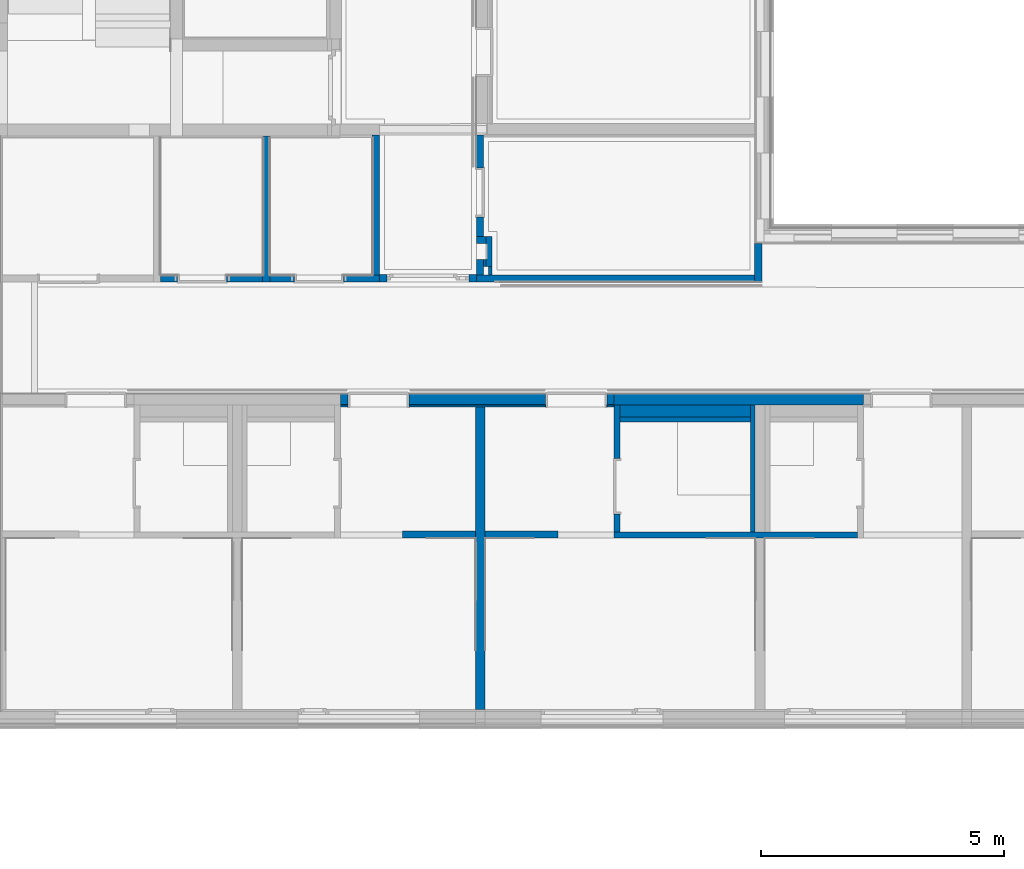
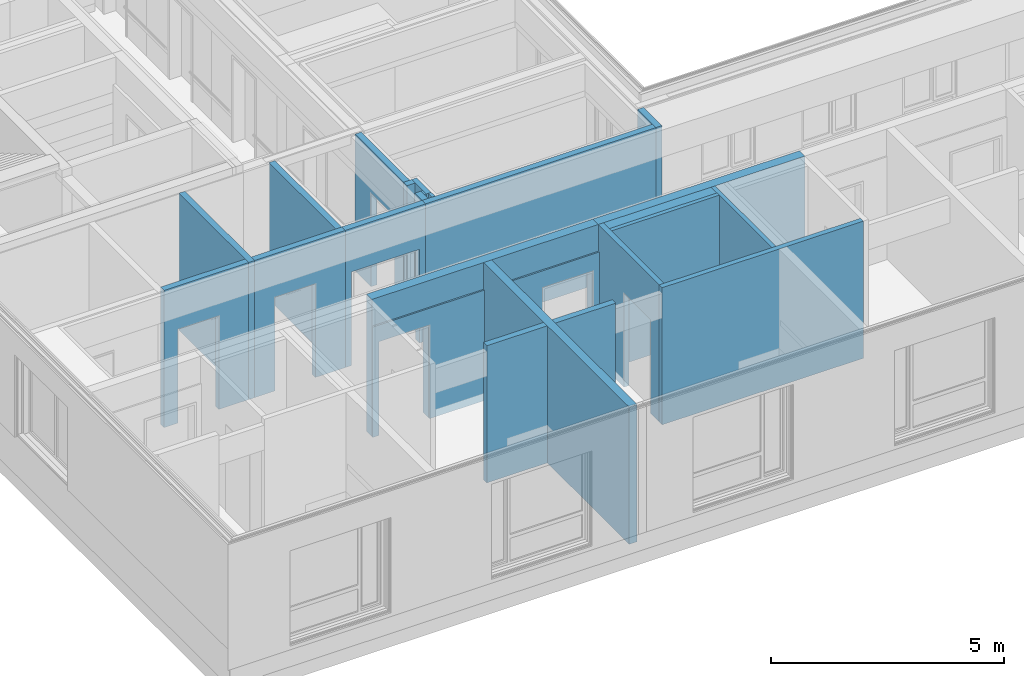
# One storey, part 10 of 207: 23 walls, 9 openings.
"""IFC4 building model written with IfcOpenShell, lengths in metres."""

import ifcopenshell
import ifcopenshell.guid

model = None  # the IFC model being written
_history = None  # IfcOwnerHistory: only IFC2X3 demands one
_inside = {}  # id of a spatial element -> (the spatial element, [elements in it])
_under = {}  # id of a project, library or spatial element -> (it, [spatial elements below it])
_declared = {}  # id of a project -> (the project, [libraries it declares])
_typed = {}  # id of a type object -> (the type object, [elements of that type])
_made_of = {}  # id of a material, layer set ... -> (it, [elements and type objects made of it])


def new_model(schema):
    """Start an empty IFC model of exactly this schema.

    Asked for "IFC4X3", IfcOpenShell would pick the latest addendum, in which some entities
    have other attributes; the version numbers below select the first issue.
    IFC2X3 requires an IfcOwnerHistory on every rooted entity: one is made here for all.
    """
    global model, _history
    if schema == "IFC4X3":
        model = ifcopenshell.file(schema_version=(4, 3, 0, 0))
    else:
        model = ifcopenshell.file(schema=schema)
    _inside.clear()
    _under.clear()
    _declared.clear()
    _typed.clear()
    _made_of.clear()
    _history = None
    if model.schema == "IFC2X3":
        org = make("IfcOrganization", Name="unknown")
        user = make(
            "IfcPersonAndOrganization",
            ThePerson=make("IfcPerson", FamilyName="unknown"),
            TheOrganization=org,
        )
        app = make(
            "IfcApplication",
            ApplicationDeveloper=org,
            Version="unknown",
            ApplicationFullName="unknown",
            ApplicationIdentifier="unknown",
        )
        _history = make(
            "IfcOwnerHistory",
            OwningUser=user,
            OwningApplication=app,
            ChangeAction="ADDED",
            CreationDate=0,
        )
    return model


def make(cls, **values):
    """One entity of the class cls with the attributes given. An attribute that is None is left unset."""
    return model.create_entity(
        cls, **{name: value for name, value in values.items() if value is not None}
    )


def entity(cls, *values):
    """Any entity or typed value of the class cls, its attributes in the order of the schema. None: left unset."""
    e = model.create_entity(cls)
    for i, value in enumerate(values):
        if value is not None:
            e[i] = value
    return e


def rooted(cls, **values):
    """An entity with a GlobalId (a new one), such as an element, a storey or a relation."""
    return make(cls, GlobalId=ifcopenshell.guid.new(), OwnerHistory=_history, **values)


def si_unit(unit_type, name, prefix=None):
    """IfcSIUnit, for example si_unit("LENGTHUNIT", "METRE", prefix="MILLI")."""
    return make("IfcSIUnit", UnitType=unit_type, Prefix=prefix, Name=name)


def converted_unit(unit_type, name, factor, base, dimensions=None, offset=None):
    """IfcConversionBasedUnit, such as the inch: factor (a typed value) times the base unit."""
    return make(
        "IfcConversionBasedUnit"
        if offset is None
        else "IfcConversionBasedUnitWithOffset",
        ConversionOffset=offset,
        Dimensions=None
        if dimensions is None
        else entity("IfcDimensionalExponents", *dimensions),
        UnitType=unit_type,
        Name=name,
        ConversionFactor=make(
            "IfcMeasureWithUnit", ValueComponent=factor, UnitComponent=base
        ),
    )


def derived_unit(unit_type, elements):
    """IfcDerivedUnit: a product of units, each with its exponent."""
    return make(
        "IfcDerivedUnit",
        Elements=[
            make("IfcDerivedUnitElement", Unit=unit, Exponent=power)
            for unit, power in elements
        ],
        UnitType=unit_type,
    )


def assignment(units):
    """IfcUnitAssignment: the units of a project."""
    return None if units is None else make("IfcUnitAssignment", Units=units)


def point(xyz):
    """IfcCartesianPoint."""
    return None if xyz is None else make("IfcCartesianPoint", Coordinates=xyz)


def direction(xyz):
    """IfcDirection."""
    return None if xyz is None else make("IfcDirection", DirectionRatios=xyz)


def frame(location, z_axis=None, x_axis=None):
    """IfcAxis2Placement3D, a coordinate frame: its origin and axes. An axis left out is left unset."""
    return make(
        "IfcAxis2Placement3D",
        Location=point(location),
        Axis=direction(z_axis),
        RefDirection=direction(x_axis),
    )


def frame_2d(location, x_axis=None):
    """IfcAxis2Placement2D, a coordinate frame in the plane: its origin and x axis."""
    return make(
        "IfcAxis2Placement2D", Location=point(location), RefDirection=direction(x_axis)
    )


def origin():
    """The frame at (0, 0, 0) with its axes left unset."""
    return frame((0.0, 0.0, 0.0))


def origin_with_axes():
    """The frame at (0, 0, 0) with the z axis (0, 0, 1) and the x axis (1, 0, 0) written out."""
    return frame((0.0, 0.0, 0.0), z_axis=(0.0, 0.0, 1.0), x_axis=(1.0, 0.0, 0.0))


def place(relative_to, where):
    """IfcLocalPlacement: puts the frame where relative to a parent placement (None: the world)."""
    return make(
        "IfcLocalPlacement", PlacementRelTo=relative_to, RelativePlacement=where
    )


def context(
    kind, dimensions, precision=None, world=None, true_north=None, identifier=None
):
    """IfcGeometricRepresentationContext, for example the 3D "Model" context."""
    return make(
        "IfcGeometricRepresentationContext",
        ContextIdentifier=identifier,
        ContextType=kind,
        CoordinateSpaceDimension=dimensions,
        Precision=precision,
        WorldCoordinateSystem=world,
        TrueNorth=true_north,
    )


def subcontext(parent, identifier, kind, view, scale=None):
    """IfcGeometricRepresentationSubContext, for example "Body" below "Model"."""
    return make(
        "IfcGeometricRepresentationSubContext",
        ContextIdentifier=identifier,
        ContextType=kind,
        ParentContext=parent,
        TargetScale=scale,
        TargetView=view,
    )


def project(units=None, contexts=None):
    """IfcProject with its units and contexts."""
    return rooted(
        "IfcProject",
        Name="project",
        RepresentationContexts=contexts,
        UnitsInContext=assignment(units),
    )


def spatial(cls, under=None, at=None, **own):
    """A site, building, storey or space (cls), placed at a placement, below another one or the project."""
    s = rooted(cls, ObjectPlacement=at, **own)
    if under is not None:
        _under.setdefault(under.id(), (under, []))[1].append(s)
    return s


def polyline(points):
    """IfcPolyline through the points."""
    return make("IfcPolyline", Points=[point(p) for p in points])


def profile(cls, at=None, kind="AREA", **sizes):
    """A parametric profile (cls). Its sizes go by their IFC names, for example OverallWidth=200.0."""
    return make(cls, ProfileType=kind, Position=at, **sizes)


def rectangle(**sizes):
    """IfcRectangleProfileDef."""
    return profile("IfcRectangleProfileDef", **sizes)


def outline(outer, holes=None, kind="AREA"):
    """IfcArbitraryClosedProfileDef: a profile drawn as a closed curve; with holes, ...WithVoids."""
    if holes is None:
        return make("IfcArbitraryClosedProfileDef", ProfileType=kind, OuterCurve=outer)
    return make(
        "IfcArbitraryProfileDefWithVoids",
        ProfileType=kind,
        OuterCurve=outer,
        InnerCurves=holes,
    )


def extrude(swept, where, along, depth):
    """IfcExtrudedAreaSolid: the profile swept, set in the frame where, extruded along a direction by depth."""
    return make(
        "IfcExtrudedAreaSolid",
        SweptArea=swept,
        Position=where,
        ExtrudedDirection=direction(along),
        Depth=depth,
    )


def shape(context_of_items, identifier, shape_type, items):
    """IfcShapeRepresentation: the items that make up one representation, for example the "Body"."""
    return make(
        "IfcShapeRepresentation",
        ContextOfItems=context_of_items,
        RepresentationIdentifier=identifier,
        RepresentationType=shape_type,
        Items=items,
    )


def material(Name=None, Category=None):
    """IfcMaterial."""
    return make("IfcMaterial", Name=Name, Category=Category)


def made_of(thing, what):
    """Note that an element or type object is made of a material, layer set ...; save() writes the relation."""
    if what is not None:
        _made_of.setdefault(what.id(), (what, []))[1].append(thing)
    return thing


def element(
    cls,
    number,
    at=None,
    inside=None,
    cuts=None,
    type_object=None,
    material=None,
    context=None,
    identifier="Body",
    shape_type=None,
    held_by="IfcProductDefinitionShape",
    body=None,
    shapes=None,
    **own,
):
    """One element of the class cls, such as IfcWall. Its Tag is "e" and its number.

    at: its placement. inside: the storey or other place that contains it. cuts: it is an
    opening in that element (IfcRelVoidsElement). A single representation is given by context,
    identifier, shape_type and body (its items); several are given by shapes. held_by: the class
    of the entity that holds the representations. save() writes the other relations.
    """
    e = rooted(cls, Tag="e%d" % number, ObjectPlacement=at, **own)
    if body is not None:
        shapes = [shape(context, identifier, shape_type, body)]
    if shapes is not None:
        e.Representation = make(held_by, Representations=shapes)
    if inside is not None:
        _inside.setdefault(inside.id(), (inside, []))[1].append(e)
    if cuts is not None:
        rooted(
            "IfcRelVoidsElement", RelatingBuildingElement=cuts, RelatedOpeningElement=e
        )
    if type_object is not None:
        _typed.setdefault(type_object.id(), (type_object, []))[1].append(e)
    return made_of(e, material)


def aggregate(whole, parts):
    """IfcRelAggregates: a whole, such as a stair, and the parts it consists of."""
    return rooted("IfcRelAggregates", RelatingObject=whole, RelatedObjects=parts)


def save(model, path):
    """Write the relations noted so far, then the file.

    IfcRelAggregates (storeys below a building ...), IfcRelContainedInSpatialStructure (elements
    in a storey), IfcRelDefinesByType, IfcRelAssociatesMaterial and IfcRelDeclares: one each for
    every whole, place, type object, material and project.
    """
    for whole, parts in _under.values():
        aggregate(whole, parts)
    for where, things in _inside.values():
        rooted(
            "IfcRelContainedInSpatialStructure",
            RelatedElements=things,
            RelatingStructure=where,
        )
    for kind, things in _typed.values():
        rooted("IfcRelDefinesByType", RelatedObjects=things, RelatingType=kind)
    for what, things in _made_of.values():
        rooted("IfcRelAssociatesMaterial", RelatedObjects=things, RelatingMaterial=what)
    for by, libraries in _declared.values():
        rooted("IfcRelDeclares", RelatingContext=by, RelatedDefinitions=libraries)
    model.write(path)


model = new_model("IFC4")

# Units and contexts
model_context = context("Model", 3, precision=1e-05, world=origin())
body_context = subcontext(model_context, "Body", "Model", "MODEL_VIEW")
ifc_project = project(units=[si_unit("LENGTHUNIT", "METRE"), si_unit("AREAUNIT", "SQUARE_METRE"), si_unit("VOLUMEUNIT", "CUBIC_METRE"), si_unit("MASSUNIT", "GRAM", prefix="KILO"), converted_unit("PLANEANGLEUNIT", "DEGREE", entity("IfcPlaneAngleMeasure", 0.0174532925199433), si_unit("PLANEANGLEUNIT", "RADIAN"), dimensions=[0, 0, 0, 0, 0, 0, 0]), derived_unit("THERMALTRANSMITTANCEUNIT", [(si_unit("POWERUNIT", "WATT"), 1), (si_unit("THERMODYNAMICTEMPERATUREUNIT", "KELVIN"), -1), (si_unit("LENGTHUNIT", "METRE"), -2)]), derived_unit("VOLUMETRICFLOWRATEUNIT", [(si_unit("LENGTHUNIT", "METRE"), 3), (converted_unit("TIMEUNIT", "hour", entity("IfcTimeMeasure", 3600.0), si_unit("TIMEUNIT", "SECOND"), dimensions=[0, 0, 1, 0, 0, 0, 0]), -1), (si_unit("LENGTHUNIT", "METRE"), -1)])], contexts=[model_context])

# Site, building, storey
site_placement = place(None, origin())
site = spatial("IfcSite", under=ifc_project, at=site_placement, Name="Psychiatrie Neubau Wunstorf", CompositionType="ELEMENT")
building_placement = place(site_placement, origin())
building = spatial("IfcBuilding", under=site, at=building_placement, Name="Neubau H2 Stationsgebäude", CompositionType="ELEMENT")
storey_placement = place(building_placement, frame((0.0, 0.0, -0.2)))
storey = spatial("IfcBuildingStorey", under=building, at=storey_placement, Name="H2 Ebene 0", CompositionType="ELEMENT", Elevation=-0.2)

# Walls
ifc_material_1 = material(Name="WI-LB")
wall_1_placement = place(storey_placement, frame((5.675, 6.62499989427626, 0.0), z_axis=(0.0, 0.0, 1.0), x_axis=(0.0, 1.0, 0.0)))
element("IfcWall", 1, at=wall_1_placement, inside=storey, material=ifc_material_1, context=body_context, shape_type="SweptSolid", body=[
    extrude(rectangle(XDim=3.0, YDim=0.15, at=frame_2d((1.5, 0.075), x_axis=(1.0, 0.0))), origin_with_axes(), (0.0, 0.0, 1.0), 3.6),
])
ifc_material_2 = material(Name="WI-LB")
wall_2_placement = place(storey_placement, frame((17.75, 1.48374963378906, 0.0), z_axis=(0.0, 0.0, 1.0), x_axis=(-1.0, 0.0, 0.0)))
element("IfcWall", 2, at=wall_2_placement, inside=storey, material=ifc_material_2, context=body_context, shape_type="SweptSolid", body=[
    extrude(rectangle(XDim=5.0, YDim=0.125, at=frame_2d((2.5, 0.0625), x_axis=(1.0, 0.0))), origin_with_axes(), (0.0, 0.0, 1.0), 3.6),
])

# Wall, openings
ifc_material_3 = material(Name="WI-LB")
wall_3_placement = place(storey_placement, frame((7.925, 6.77499989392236, 0.0), z_axis=(0.0, 0.0, 1.0), x_axis=(-1.0, 0.0, 0.0)))
wall_3 = element("IfcWall", 3, at=wall_3_placement, inside=storey, material=ifc_material_3, context=body_context, shape_type="SweptSolid", body=[
    extrude(rectangle(XDim=2.25, YDim=0.15, at=frame_2d((1.125, 0.075), x_axis=(1.0, 0.0))), origin_with_axes(), (0.0, 0.0, 1.0), 3.6),
    extrude(rectangle(XDim=2.1, YDim=0.15, at=frame_2d((1.05, 0.075), x_axis=(1.0, 0.0))), frame((2.4, 0.0, 0.0), z_axis=(0.0, 0.0, 1.0), x_axis=(1.0, 0.0, 0.0)), (0.0, 0.0, 1.0), 3.6),
])
opening_1_placement = place(wall_3_placement, frame((0.74, 0.0, 0.0), z_axis=(0.0, 1.0, 0.0), x_axis=(0.0, 0.0, 1.0)))
element("IfcOpeningElement", 4, at=opening_1_placement, cuts=wall_3, Name="Türöffnung", ObjectType="Opening", context=body_context, shape_type="SweptSolid", body=[
    extrude(outline(polyline([(2.46, 1.01), (2.46, 0.0), (0.0, 0.0), (0.0, 1.01), (2.46, 1.01)])), origin_with_axes(), (0.0, 0.0, 1.0), 0.15),
])
opening_2_placement = place(wall_3_placement, frame((3.14, 0.0, 0.0), z_axis=(0.0, 1.0, 0.0), x_axis=(0.0, 0.0, 1.0)))
element("IfcOpeningElement", 5, at=opening_2_placement, cuts=wall_3, Name="Türöffnung", ObjectType="Opening", context=body_context, shape_type="SweptSolid", body=[
    extrude(outline(polyline([(2.46, 1.01), (2.46, 0.0), (0.0, 0.0), (0.0, 1.01), (2.46, 1.01)])), origin_with_axes(), (0.0, 0.0, 1.0), 0.15),
])

# Walls
ifc_material_4 = material(Name="WI-LB")
wall_4_placement = place(storey_placement, frame((9.9, 4.09874963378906, 0.0), z_axis=(0.0, 0.0, 1.0), x_axis=(0.0, -1.0, 0.0)))
element("IfcWall", 6, at=wall_4_placement, inside=storey, material=ifc_material_4, context=body_context, shape_type="SweptSolid", body=[
    extrude(rectangle(XDim=6.26274963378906, YDim=0.2, at=frame_2d((3.13137481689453, 0.1), x_axis=(1.0, 0.0))), origin_with_axes(), (0.0, 0.0, 1.0), 3.6),
])
ifc_material_5 = material(Name="WI-LB")
wall_5_placement = place(storey_placement, frame((15.639, 6.77499989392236, 0.0), z_axis=(0.0, 0.0, 1.0), x_axis=(-1.0, 0.0, 0.0)))
element("IfcWall", 7, at=wall_5_placement, inside=storey, material=ifc_material_5, context=body_context, shape_type="SweptSolid", body=[
    extrude(rectangle(XDim=5.72149997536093, YDim=0.15, at=frame_2d((2.86074998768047, 0.075), x_axis=(1.0, 0.0))), origin_with_axes(), (0.0, 0.0, 1.0), 3.6),
])
ifc_material_6 = material(Name="WI-LB")
wall_6_placement = place(storey_placement, frame((15.639, 7.414, 0.0), z_axis=(0.0, 0.0, 1.0), x_axis=(0.0, -1.0, 0.0)))
element("IfcWall", 8, at=wall_6_placement, inside=storey, material=ifc_material_6, context=body_context, shape_type="SweptSolid", body=[
    extrude(rectangle(XDim=0.789000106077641, YDim=0.15, at=frame_2d((0.394500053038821, 0.075), x_axis=(1.0, 0.0))), origin_with_axes(), (0.0, 0.0, 1.0), 3.6),
])
ifc_material_7 = material(Name="WI-LB")
wall_7_placement = place(storey_placement, frame((9.9, 1.5087496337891, 0.0), z_axis=(0.0, 0.0, 1.0), x_axis=(-1.0, 0.0, 0.0)))
element("IfcWall", 9, at=wall_7_placement, inside=storey, material=ifc_material_7, context=body_context, shape_type="SweptSolid", body=[
    extrude(rectangle(XDim=1.5, YDim=0.15, at=frame_2d((0.75, 0.075), x_axis=(1.0, 0.0))), origin_with_axes(), (0.0, 0.0, 1.0), 3.6),
])
ifc_material_8 = material(Name="WI-LB")
wall_8_placement = place(storey_placement, frame((11.6, 1.5087496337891, 0.0), z_axis=(0.0, 0.0, 1.0), x_axis=(-1.0, 0.0, 0.0)))
element("IfcWall", 10, at=wall_8_placement, inside=storey, material=ifc_material_8, context=body_context, shape_type="SweptSolid", body=[
    extrude(rectangle(XDim=1.5, YDim=0.15, at=frame_2d((0.75, 0.075), x_axis=(1.0, 0.0))), origin_with_axes(), (0.0, 0.0, 1.0), 3.6),
])
ifc_material_9 = material(Name="WI-LB")
wall_9_placement = place(storey_placement, frame((7.775, 9.65000025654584, 0.0), z_axis=(0.0, 0.0, 1.0), x_axis=(0.0, -1.0, 0.0)))
element("IfcWall", 11, at=wall_9_placement, inside=storey, material=ifc_material_9, context=body_context, shape_type="SweptSolid", body=[
    extrude(rectangle(XDim=2.87500036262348, YDim=0.15, at=frame_2d((1.43750018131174, 0.075), x_axis=(1.0, 0.0))), origin_with_axes(), (0.0, 0.0, 1.0), 3.6),
])

# Wall, openings
ifc_material_10 = material(Name="WI-HW 60")
wall_10_placement = place(storey_placement, frame((12.75, 4.33074963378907, 0.0), z_axis=(0.0, 0.0, 1.0), x_axis=(-1.0, -8.08439734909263e-16, 0.0)))
wall_10 = element("IfcWall", 12, at=wall_10_placement, inside=storey, material=ifc_material_10, context=body_context, shape_type="SweptSolid", body=[
    extrude(rectangle(XDim=5.62500000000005, YDim=0.232000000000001, at=frame_2d((2.81250000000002, 0.116), x_axis=(1.0, 0.0))), origin_with_axes(), (0.0, 0.0, 1.0), 3.6),
])
opening_3_placement = place(wall_10_placement, frame((0.150000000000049, 0.0, 0.0), z_axis=(8.575515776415e-16, 1.0, 0.0), x_axis=(0.0, 0.0, 1.0)))
element("IfcOpeningElement", 13, at=opening_3_placement, cuts=wall_10, Name="Türöffnung", ObjectType="Opening", context=body_context, shape_type="SweptSolid", body=[
    extrude(outline(polyline([(2.46, 1.26), (2.46, 0.0), (0.0, 0.0), (0.0, 1.26), (2.46, 1.26)])), origin_with_axes(), (0.0, 0.0, 1.0), 0.232),
])
opening_4_placement = place(wall_10_placement, frame((4.21500000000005, 0.0, 0.0), z_axis=(0.0, 1.0, 0.0), x_axis=(0.0, 0.0, 1.0)))
element("IfcOpeningElement", 14, at=opening_4_placement, cuts=wall_10, Name="Türöffnung", ObjectType="Opening", context=body_context, shape_type="SweptSolid", body=[
    extrude(outline(polyline([(2.46, 1.26), (2.46, 0.0), (0.0, 0.0), (0.0, 1.26), (2.46, 1.26)])), origin_with_axes(), (0.0, 0.0, 1.0), 0.232000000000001),
])

ifc_material_11 = material(Name="WI-LB")
wall_11_placement = place(storey_placement, frame((12.75, 4.09874963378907, 0.0), z_axis=(0.0, 0.0, 1.0), x_axis=(-1.0, -8.08439734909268e-16, 0.0)))
wall_11 = element("IfcWall", 15, at=wall_11_placement, inside=storey, material=ifc_material_11, context=body_context, shape_type="SweptSolid", body=[
    extrude(rectangle(XDim=5.62500000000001, YDim=0.0394999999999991, at=frame_2d((2.8125, 0.0197499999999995), x_axis=(1.0, 0.0))), origin_with_axes(), (0.0, 0.0, 1.0), 2.9),
])
opening_5_placement = place(wall_11_placement, frame((0.150000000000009, 0.0, 0.0), z_axis=(7.19536947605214e-16, 1.0, 0.0), x_axis=(0.0, 0.0, 1.0)))
element("IfcOpeningElement", 16, at=opening_5_placement, cuts=wall_11, Name="Türöffnung", ObjectType="Opening", context=body_context, shape_type="SweptSolid", body=[
    extrude(outline(polyline([(2.46, 1.26), (2.46, 0.0), (0.0, 0.0), (0.0, 1.26), (2.46, 1.26)])), origin_with_axes(), (0.0, 0.0, 1.0), 0.0394999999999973),
])
opening_6_placement = place(wall_11_placement, frame((4.21500000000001, 0.0, 0.0), z_axis=(0.0, 1.0, 0.0), x_axis=(0.0, 0.0, 1.0)))
element("IfcOpeningElement", 17, at=opening_6_placement, cuts=wall_11, Name="Türöffnung", ObjectType="Opening", context=body_context, shape_type="SweptSolid", body=[
    extrude(outline(polyline([(2.46, 1.26), (2.46, 0.0), (0.0, 0.0), (0.0, 1.26), (2.46, 1.26)])), origin_with_axes(), (0.0, 0.0, 1.0), 0.0394999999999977),
])

# Wall
ifc_material_12 = material(Name="WI-HW 60")
wall_12_placement = place(storey_placement, frame((17.875, 4.33074963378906, 0.0), z_axis=(0.0, 0.0, 1.0), x_axis=(-1.0, 1.77462380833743e-16, 0.0)))
element("IfcWall", 18, at=wall_12_placement, inside=storey, material=ifc_material_12, context=body_context, shape_type="SweptSolid", body=[
    extrude(rectangle(XDim=5.12499999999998, YDim=0.232000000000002, at=frame_2d((2.56249999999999, 0.116000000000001), x_axis=(1.0, 0.0))), origin_with_axes(), (0.0, 0.0, 1.0), 3.6),
])

# Wall, opening
ifc_material_13 = material(Name="WI-LB")
wall_13_placement = place(storey_placement, frame((12.875, 1.48374963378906, 0.0), z_axis=(0.0, 0.0, 1.0), x_axis=(0.0, 1.0, 0.0)))
wall_13 = element("IfcWall", 19, at=wall_13_placement, inside=storey, material=ifc_material_13, context=body_context, shape_type="SweptSolid", body=[
    extrude(rectangle(XDim=2.615, YDim=0.125, at=frame_2d((1.3075, 0.0625), x_axis=(1.0, 0.0))), origin_with_axes(), (0.0, 0.0, 1.0), 3.6),
])
opening_7_placement = place(wall_13_placement, frame((0.375, 0.0, 0.0), z_axis=(0.0, 1.0, 0.0), x_axis=(0.0, 0.0, 1.0)))
element("IfcOpeningElement", 20, at=opening_7_placement, cuts=wall_13, Name="Türöffnung", ObjectType="Opening", context=body_context, shape_type="SweptSolid", body=[
    extrude(outline(polyline([(2.46, 1.135), (2.46, 0.0), (0.0, 0.0), (0.0, 1.135), (2.46, 1.135)])), origin_with_axes(), (0.0, 0.0, 1.0), 0.125),
])

# Wall
ifc_material_14 = material(Name="WI-LB")
wall_14_placement = place(storey_placement, frame((9.91750002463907, 7.08999989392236, 0.0), z_axis=(0.0, 0.0, 1.0), x_axis=(0.0, -1.0, 0.0)))
element("IfcWall", 21, at=wall_14_placement, inside=storey, material=ifc_material_14, context=body_context, shape_type="SweptSolid", body=[
    extrude(rectangle(XDim=0.315, YDim=0.15, at=frame_2d((0.1575, 0.075), x_axis=(1.0, 0.0))), origin_with_axes(), (0.0, 0.0, 1.0), 3.6),
])

# Wall, opening
ifc_material_15 = material(Name="WI-LB")
wall_15_placement = place(storey_placement, frame((10.0675000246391, 7.56499989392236, 0.0), z_axis=(0.0, 0.0, 1.0), x_axis=(0.0, 1.0, 0.0)))
wall_15 = element("IfcWall", 22, at=wall_15_placement, inside=storey, material=ifc_material_15, context=body_context, shape_type="SweptSolid", body=[
    extrude(rectangle(XDim=2.085, YDim=0.15, at=frame_2d((1.0425, 0.075), x_axis=(1.0, 0.0))), origin_with_axes(), (0.0, 0.0, 1.0), 3.6),
])
opening_8_placement = place(wall_15_placement, frame((1.41, 0.15, 0.0), z_axis=(0.0, -1.0, 0.0), x_axis=(0.0, 0.0, 1.0)))
element("IfcOpeningElement", 23, at=opening_8_placement, cuts=wall_15, Name="Türöffnung", ObjectType="Opening", context=body_context, shape_type="SweptSolid", body=[
    extrude(outline(polyline([(2.46, 1.01), (2.46, 0.0), (0.0, 0.0), (0.0, 1.01), (2.46, 1.01)])), origin_with_axes(), (0.0, 0.0, 1.0), 0.15),
])

# Walls
ifc_material_16 = material(Name="WI-LB")
wall_16_placement = place(storey_placement, frame((10.2425000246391, 6.77499990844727, 0.0), z_axis=(0.0, 0.0, 1.0), x_axis=(0.0, 1.0, 0.0)))
element("IfcWall", 24, at=wall_16_placement, inside=storey, material=ifc_material_16, context=body_context, shape_type="SweptSolid", body=[
    extrude(rectangle(XDim=0.164999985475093, YDim=0.075, at=frame_2d((0.0824999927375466, 0.0375), x_axis=(1.0, 0.0))), origin_with_axes(), (0.0, 0.0, 1.0), 3.6),
])
ifc_material_17 = material(Name="WI-LB")
wall_17_placement = place(storey_placement, frame((10.2425000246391, 6.93999989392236, 0.0), z_axis=(0.0, 0.0, 1.0), x_axis=(0.0, 1.0, 0.0)))
element("IfcWall", 25, at=wall_17_placement, inside=storey, material=ifc_material_17, context=body_context, shape_type="SweptSolid", body=[
    extrude(rectangle(XDim=0.625, YDim=0.125, at=frame_2d((0.3125, 0.0625), x_axis=(1.0, 0.0))), origin_with_axes(), (0.0, 0.0, 1.0), 3.6),
])
ifc_material_18 = material(Name="WI-LB")
wall_18_placement = place(storey_placement, frame((9.91750002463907, 7.41499989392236, 0.0)))
element("IfcWall", 26, at=wall_18_placement, inside=storey, material=ifc_material_18, context=body_context, shape_type="SweptSolid", body=[
    extrude(rectangle(XDim=0.2, YDim=0.15, at=frame_2d((0.1, 0.075), x_axis=(1.0, 0.0))), origin_with_axes(), (0.0, 0.0, 1.0), 3.6),
])
ifc_material_19 = material(Name="WI-LB")
wall_19_placement = place(storey_placement, frame((10.0675000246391, 6.93999989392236, 0.0)))
element("IfcWall", 27, at=wall_19_placement, inside=storey, material=ifc_material_19, context=body_context, shape_type="SweptSolid", body=[
    extrude(rectangle(XDim=0.05, YDim=0.15, at=frame_2d((0.025, 0.075), x_axis=(1.0, 0.0))), origin_with_axes(), (0.0, 0.0, 1.0), 3.6),
])

# Wall, opening
ifc_material_20 = material(Name="WI-LB")
wall_20_placement = place(storey_placement, frame((9.91750002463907, 6.77999989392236, 0.0), z_axis=(0.0, 0.0, 1.0), x_axis=(-1.0, 0.0, 0.0)))
wall_20 = element("IfcWall", 28, at=wall_20_placement, inside=storey, material=ifc_material_20, context=body_context, shape_type="SweptSolid", body=[
    extrude(rectangle(XDim=1.99250002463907, YDim=0.155, at=frame_2d((0.996250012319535, 0.0775), x_axis=(1.0, 0.0))), origin_with_axes(), (0.0, 0.0, 1.0), 3.6),
])
opening_9_placement = place(wall_20_placement, frame((0.155000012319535, 0.0, 0.0), z_axis=(0.0, 1.0, 0.0), x_axis=(0.0, 0.0, 1.0)))
element("IfcOpeningElement", 29, at=opening_9_placement, cuts=wall_20, Name="Türöffnung", ObjectType="Opening", context=body_context, shape_type="SweptSolid", body=[
    extrude(outline(polyline([(2.46, 1.6825), (2.46, 0.0), (0.0, 0.0), (0.0, 1.6825), (2.46, 1.6825)])), origin_with_axes(), (0.0, 0.0, 1.0), 0.155),
])

# Walls
ifc_material_21 = material(Name="WI-IW")
wall_21_placement = place(storey_placement, frame((12.875, 3.74874963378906, 0.0)))
element("IfcWall", 30, at=wall_21_placement, inside=storey, material=ifc_material_21, context=body_context, shape_type="SweptSolid", body=[
    extrude(rectangle(XDim=2.675, YDim=0.1, at=frame_2d((1.3375, 0.05), x_axis=(1.0, 0.0))), origin_with_axes(), (0.0, 0.0, 1.0), 3.6),
])
ifc_material_22 = material(Name="Installationsraum")
wall_22_placement = place(storey_placement, frame((12.875, 3.84874963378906, 0.0)))
element("IfcWall", 31, at=wall_22_placement, inside=storey, material=ifc_material_22, context=body_context, shape_type="SweptSolid", body=[
    extrude(rectangle(XDim=2.675, YDim=0.25, at=frame_2d((1.3375, 0.125), x_axis=(1.0, 0.0))), origin_with_axes(), (0.0, 0.0, 1.0), 3.6),
])
ifc_material_23 = material(Name="WI-IW")
wall_23_placement = place(storey_placement, frame((15.65, 1.48374963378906, 0.0), z_axis=(0.0, 0.0, 1.0), x_axis=(0.0, 1.0, 0.0)))
element("IfcWall", 32, at=wall_23_placement, inside=storey, material=ifc_material_23, context=body_context, shape_type="SweptSolid", body=[
    extrude(rectangle(XDim=2.615, YDim=0.1, at=frame_2d((1.3075, 0.05), x_axis=(1.0, 0.0))), origin_with_axes(), (0.0, 0.0, 1.0), 3.6),
])

save(model, "model.ifc")
